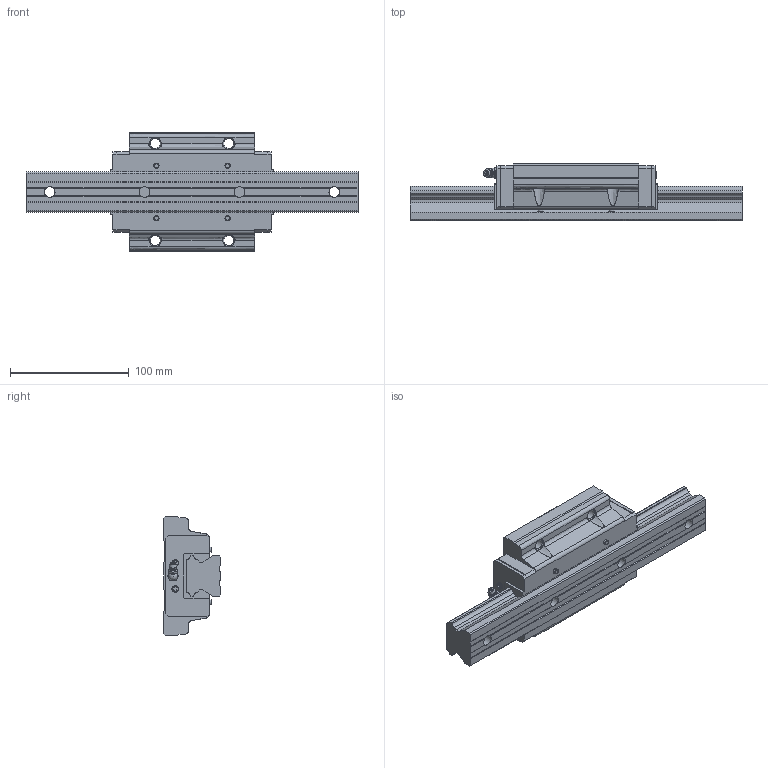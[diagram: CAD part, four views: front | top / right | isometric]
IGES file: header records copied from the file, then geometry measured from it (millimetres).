
Start section: Data from Parasolid IGES Translator 26.0.171, Copyright(c) 2006 Siemens PLM Software. All Rights Reserved.
Global section: file name: HSR35M1LA1SS-280L_G20_0_B-M6F_71-3_0_0_0_1.igs; native system: By Siemens PLM Incorporated; preprocessor: XPlus GENERIC/IGES 26.0.171; author: Noname; organization: Noname; date: 20240523.061213; units: millimetre
Bounding box: 280 x 48 x 100 mm (x, y, z)
Surface area: 90363.9 mm2 (no closed solid volume)
Topology: 0 solids, 0 shells, 273 faces, 1482 edges, 1408 vertices
Faces by surface type: extrusion 190, revolution 83
